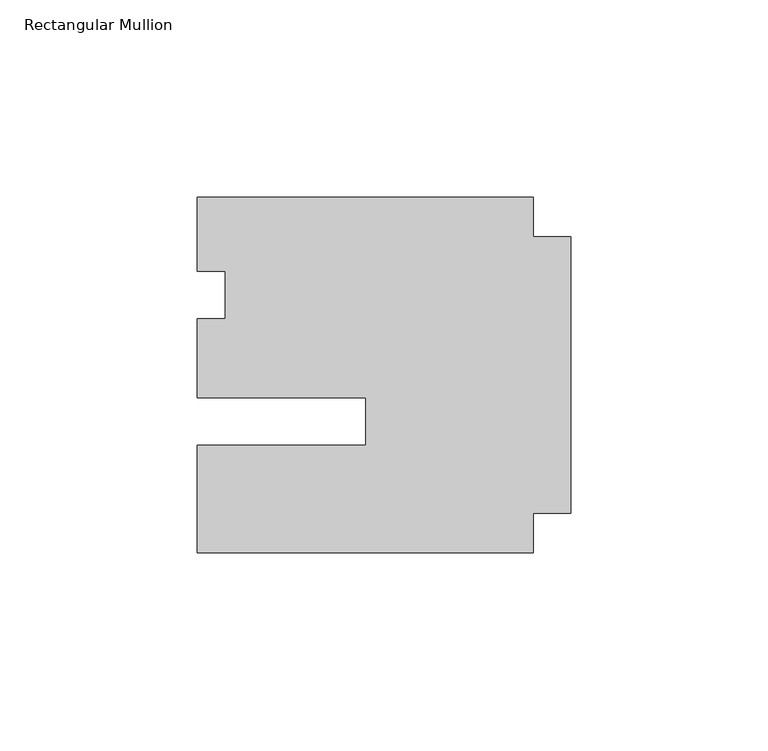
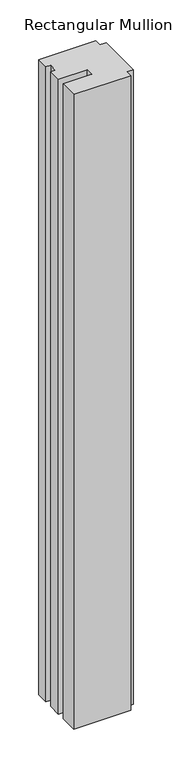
"""IFC4 building model written with IfcOpenShell, lengths in millimetres: member geometry, Rectangular Mullion : Klein_Nature_Profile-Top-Pocket."""

import ifcopenshell
import ifcopenshell.guid

model = None  # the IFC model being written
_history = None  # IfcOwnerHistory: only IFC2X3 demands one
_inside = {}  # id of a spatial element -> (the spatial element, [elements in it])
_under = {}  # id of a project, library or spatial element -> (it, [spatial elements below it])
_declared = {}  # id of a project -> (the project, [libraries it declares])
_typed = {}  # id of a type object -> (the type object, [elements of that type])
_made_of = {}  # id of a material, layer set ... -> (it, [elements and type objects made of it])


def new_model(schema):
    """Start an empty IFC model of exactly this schema.

    Asked for "IFC4X3", IfcOpenShell would pick the latest addendum, in which some entities
    have other attributes; the version numbers below select the first issue.
    IFC2X3 requires an IfcOwnerHistory on every rooted entity: one is made here for all.
    """
    global model, _history
    if schema == "IFC4X3":
        model = ifcopenshell.file(schema_version=(4, 3, 0, 0))
    else:
        model = ifcopenshell.file(schema=schema)
    _inside.clear()
    _under.clear()
    _declared.clear()
    _typed.clear()
    _made_of.clear()
    _history = None
    if model.schema == "IFC2X3":
        org = make("IfcOrganization", Name="unknown")
        user = make(
            "IfcPersonAndOrganization",
            ThePerson=make("IfcPerson", FamilyName="unknown"),
            TheOrganization=org,
        )
        app = make(
            "IfcApplication",
            ApplicationDeveloper=org,
            Version="unknown",
            ApplicationFullName="unknown",
            ApplicationIdentifier="unknown",
        )
        _history = make(
            "IfcOwnerHistory",
            OwningUser=user,
            OwningApplication=app,
            ChangeAction="ADDED",
            CreationDate=0,
        )
    return model


def make(cls, **values):
    """One entity of the class cls with the attributes given. An attribute that is None is left unset."""
    return model.create_entity(
        cls, **{name: value for name, value in values.items() if value is not None}
    )


def rooted(cls, **values):
    """An entity with a GlobalId (a new one), such as an element, a storey or a relation."""
    return make(cls, GlobalId=ifcopenshell.guid.new(), OwnerHistory=_history, **values)


def si_unit(unit_type, name, prefix=None):
    """IfcSIUnit, for example si_unit("LENGTHUNIT", "METRE", prefix="MILLI")."""
    return make("IfcSIUnit", UnitType=unit_type, Prefix=prefix, Name=name)


def assignment(units):
    """IfcUnitAssignment: the units of a project."""
    return None if units is None else make("IfcUnitAssignment", Units=units)


def point(xyz):
    """IfcCartesianPoint."""
    return None if xyz is None else make("IfcCartesianPoint", Coordinates=xyz)


def direction(xyz):
    """IfcDirection."""
    return None if xyz is None else make("IfcDirection", DirectionRatios=xyz)


def frame(location, z_axis=None, x_axis=None):
    """IfcAxis2Placement3D, a coordinate frame: its origin and axes. An axis left out is left unset."""
    return make(
        "IfcAxis2Placement3D",
        Location=point(location),
        Axis=direction(z_axis),
        RefDirection=direction(x_axis),
    )


def origin():
    """The frame at (0, 0, 0) with its axes left unset."""
    return frame((0.0, 0.0, 0.0))


def place(relative_to, where):
    """IfcLocalPlacement: puts the frame where relative to a parent placement (None: the world)."""
    return make(
        "IfcLocalPlacement", PlacementRelTo=relative_to, RelativePlacement=where
    )


def context(
    kind, dimensions, precision=None, world=None, true_north=None, identifier=None
):
    """IfcGeometricRepresentationContext, for example the 3D "Model" context."""
    return make(
        "IfcGeometricRepresentationContext",
        ContextIdentifier=identifier,
        ContextType=kind,
        CoordinateSpaceDimension=dimensions,
        Precision=precision,
        WorldCoordinateSystem=world,
        TrueNorth=true_north,
    )


def project(units=None, contexts=None):
    """IfcProject with its units and contexts."""
    return rooted(
        "IfcProject",
        Name="project",
        RepresentationContexts=contexts,
        UnitsInContext=assignment(units),
    )


def spatial(cls, under=None, at=None, **own):
    """A site, building, storey or space (cls), placed at a placement, below another one or the project."""
    s = rooted(cls, ObjectPlacement=at, **own)
    if under is not None:
        _under.setdefault(under.id(), (under, []))[1].append(s)
    return s


def polyline(points):
    """IfcPolyline through the points."""
    return make("IfcPolyline", Points=[point(p) for p in points])


def outline(outer, holes=None, kind="AREA"):
    """IfcArbitraryClosedProfileDef: a profile drawn as a closed curve; with holes, ...WithVoids."""
    if holes is None:
        return make("IfcArbitraryClosedProfileDef", ProfileType=kind, OuterCurve=outer)
    return make(
        "IfcArbitraryProfileDefWithVoids",
        ProfileType=kind,
        OuterCurve=outer,
        InnerCurves=holes,
    )


def extrude(swept, where, along, depth):
    """IfcExtrudedAreaSolid: the profile swept, set in the frame where, extruded along a direction by depth."""
    return make(
        "IfcExtrudedAreaSolid",
        SweptArea=swept,
        Position=where,
        ExtrudedDirection=direction(along),
        Depth=depth,
    )


def shape(context_of_items, identifier, shape_type, items):
    """IfcShapeRepresentation: the items that make up one representation, for example the "Body"."""
    return make(
        "IfcShapeRepresentation",
        ContextOfItems=context_of_items,
        RepresentationIdentifier=identifier,
        RepresentationType=shape_type,
        Items=items,
    )


def source(mapping_origin, context_of_items, identifier, shape_type, items):
    """IfcRepresentationMap: a shape defined once, which mapped items show again and again."""
    return make(
        "IfcRepresentationMap",
        MappingOrigin=mapping_origin,
        MappedRepresentation=shape(context_of_items, identifier, shape_type, items),
    )


def transform(
    local_origin,
    x_axis=None,
    y_axis=None,
    z_axis=None,
    scale=None,
    scale2=None,
    scale3=None,
    uniform=True,
):
    """IfcCartesianTransformationOperator3D, or its non-uniform kind. x_axis, y_axis, z_axis: its Axis1, 2, 3."""
    if uniform:
        return make(
            "IfcCartesianTransformationOperator3D",
            Axis1=direction(x_axis),
            Axis2=direction(y_axis),
            LocalOrigin=point(local_origin),
            Scale=scale,
            Axis3=direction(z_axis),
        )
    return make(
        "IfcCartesianTransformationOperator3DnonUniform",
        Axis1=direction(x_axis),
        Axis2=direction(y_axis),
        LocalOrigin=point(local_origin),
        Scale=scale,
        Axis3=direction(z_axis),
        Scale2=scale2,
        Scale3=scale3,
    )


def mapped(mapping_source, mapping_target):
    """IfcMappedItem: shows the shape of a source again, moved by a transform."""
    return make(
        "IfcMappedItem", MappingSource=mapping_source, MappingTarget=mapping_target
    )


def made_of(thing, what):
    """Note that an element or type object is made of a material, layer set ...; save() writes the relation."""
    if what is not None:
        _made_of.setdefault(what.id(), (what, []))[1].append(thing)
    return thing


def element(
    cls,
    number,
    at=None,
    inside=None,
    cuts=None,
    type_object=None,
    material=None,
    context=None,
    identifier="Body",
    shape_type=None,
    held_by="IfcProductDefinitionShape",
    body=None,
    shapes=None,
    **own,
):
    """One element of the class cls, such as IfcWall. Its Tag is "e" and its number.

    at: its placement. inside: the storey or other place that contains it. cuts: it is an
    opening in that element (IfcRelVoidsElement). A single representation is given by context,
    identifier, shape_type and body (its items); several are given by shapes. held_by: the class
    of the entity that holds the representations. save() writes the other relations.
    """
    e = rooted(cls, Tag="e%d" % number, ObjectPlacement=at, **own)
    if body is not None:
        shapes = [shape(context, identifier, shape_type, body)]
    if shapes is not None:
        e.Representation = make(held_by, Representations=shapes)
    if inside is not None:
        _inside.setdefault(inside.id(), (inside, []))[1].append(e)
    if cuts is not None:
        rooted(
            "IfcRelVoidsElement", RelatingBuildingElement=cuts, RelatedOpeningElement=e
        )
    if type_object is not None:
        _typed.setdefault(type_object.id(), (type_object, []))[1].append(e)
    return made_of(e, material)


def aggregate(whole, parts):
    """IfcRelAggregates: a whole, such as a stair, and the parts it consists of."""
    return rooted("IfcRelAggregates", RelatingObject=whole, RelatedObjects=parts)


def save(model, path):
    """Write the relations noted so far, then the file.

    IfcRelAggregates (storeys below a building ...), IfcRelContainedInSpatialStructure (elements
    in a storey), IfcRelDefinesByType, IfcRelAssociatesMaterial and IfcRelDeclares: one each for
    every whole, place, type object, material and project.
    """
    for whole, parts in _under.values():
        aggregate(whole, parts)
    for where, things in _inside.values():
        rooted(
            "IfcRelContainedInSpatialStructure",
            RelatedElements=things,
            RelatingStructure=where,
        )
    for kind, things in _typed.values():
        rooted("IfcRelDefinesByType", RelatedObjects=things, RelatingType=kind)
    for what, things in _made_of.values():
        rooted("IfcRelAssociatesMaterial", RelatedObjects=things, RelatingMaterial=what)
    for by, libraries in _declared.values():
        rooted("IfcRelDeclares", RelatingContext=by, RelatedDefinitions=libraries)
    model.write(path)


def rectangular_mullion_fa8072d7(model_context):
    return source(origin(), model_context, "Body", "SweptSolid", [
        extrude(outline(polyline([(-94.4999981, -5.6999949), (-94.4999996, 14.3000051), (-87.4999975, 14.3000046), (-87.4999966, 26.3000046), (-94.5000005, 26.3000051), (-94.5000018, 44.9999957), (-9.5000061, 45.0000019), (-9.5000054, 34.9999969), (-5.1e-06, 34.9999976), (0.0, -34.9999976), (-9.5000002, -34.9999983), (-9.4999995, -44.9999981), (-94.4999952, -45.0000043), (-94.4999972, -17.6999949), (-51.8500005, -17.699998), (-51.8499996, -5.699998), (-94.4999981, -5.6999949)])), frame((0.0, 0.0, -999.9999998), z_axis=(0.0, 0.0, 1.0), x_axis=(1.0, 0.0, 0.0)), (0.0, 0.0, 1.0), 999.9999998),
    ])


if __name__ == "__main__":
    model = new_model("IFC4")
    model_context = context("Model", 3, world=origin())
    ifc_project = project(units=[si_unit("LENGTHUNIT", "METRE", prefix="MILLI")], contexts=[model_context])
    site = spatial("IfcSite", under=ifc_project)
    building = spatial("IfcBuilding", under=site)
    placement = place(None, origin())
    rectangular_mullion_shape = rectangular_mullion_fa8072d7(model_context)
    element("IfcMember", 1, ObjectType="Rectangular Mullion : Klein_Nature_Profile-Top-Pocket", at=placement, inside=building, context=model_context, shape_type="MappedRepresentation", body=[
        mapped(rectangular_mullion_shape, transform((0.0, 0.0, 0.0), x_axis=(1.0, 0.0, 0.0), y_axis=(0.0, 1.0, 0.0), z_axis=(0.0, 0.0, 1.0))),
    ])
    save(model, "model.ifc")
